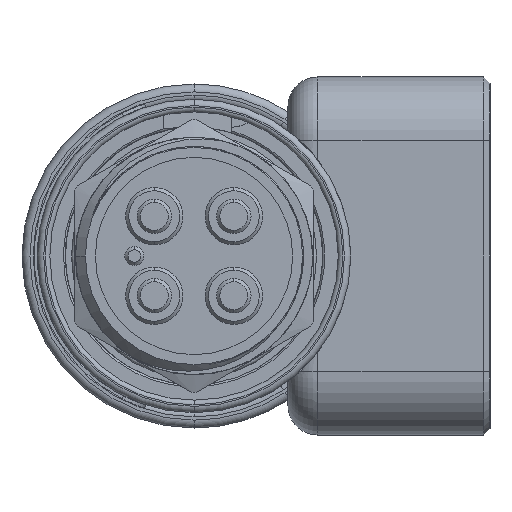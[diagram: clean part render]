
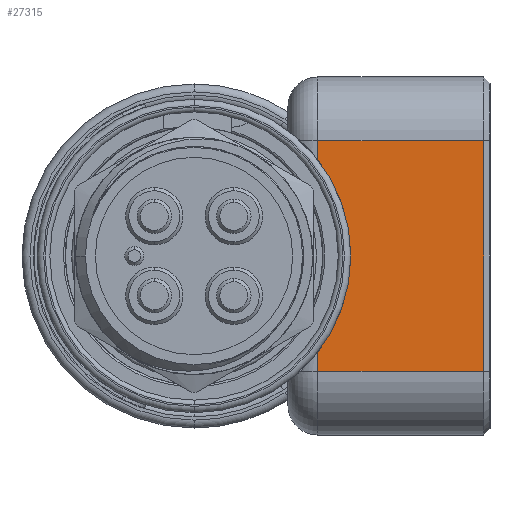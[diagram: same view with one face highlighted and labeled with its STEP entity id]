
A CAD part, left-side view. The second image highlights one B-rep face of the part: STEP entity #27315.
In plain terms, the highlighted planar face has unit normal (-1, 0, 0).
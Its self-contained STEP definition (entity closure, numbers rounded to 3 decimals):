
#662 = VERTEX_POINT ( 'NONE', #8301 ) ;
#1004 = ORIENTED_EDGE ( 'NONE', *, *, #38728, .T. ) ;
#3672 = EDGE_CURVE ( 'NONE', #4605, #39556, #26020, .T. ) ;
#4064 = CARTESIAN_POINT ( 'NONE',  ( -5.958, -9.876, 14.287 ) ) ;
#4555 = ORIENTED_EDGE ( 'NONE', *, *, #3672, .T. ) ;
#4605 = VERTEX_POINT ( 'NONE', #39994 ) ;
#5695 = EDGE_CURVE ( 'NONE', #6541, #28478, #25337, .T. ) ;
#5750 = VECTOR ( 'NONE', #38455, 1000. ) ;
#6182 = CARTESIAN_POINT ( 'NONE',  ( -5.958, -7.493, -9.208 ) ) ;
#6523 = CARTESIAN_POINT ( 'NONE',  ( -5.958, -7.493, 9.207 ) ) ;
#6541 = VERTEX_POINT ( 'NONE', #36929 ) ;
#7332 = DIRECTION ( 'NONE',  ( 0., 0., -1. ) ) ;
#8301 = CARTESIAN_POINT ( 'NONE',  ( -5.958, -9.876, 9.207 ) ) ;
#8409 = VECTOR ( 'NONE', #42129, 1000. ) ;
#8831 = VECTOR ( 'NONE', #32306, 1000. ) ;
#8895 = DIRECTION ( 'NONE',  ( 1., 0., 0. ) ) ;
#9024 = VECTOR ( 'NONE', #7332, 1000. ) ;
#9980 = EDGE_CURVE ( 'NONE', #662, #6541, #12152, .T. ) ;
#12152 = LINE ( 'NONE', #37446, #28933 ) ;
#14353 = LINE ( 'NONE', #18875, #5750 ) ;
#15240 = PLANE ( 'NONE',  #39235 ) ;
#15395 = DIRECTION ( 'NONE',  ( 0., 0., -1. ) ) ;
#16160 = ORIENTED_EDGE ( 'NONE', *, *, #9980, .T. ) ;
#17039 = CARTESIAN_POINT ( 'NONE',  ( -5.958, -23.114, 9.207 ) ) ;
#17493 = VERTEX_POINT ( 'NONE', #17039 ) ;
#18875 = CARTESIAN_POINT ( 'NONE',  ( -5.958, -23.114, 14.287 ) ) ;
#19326 = CARTESIAN_POINT ( 'NONE',  ( -5.958, 0., 0. ) ) ;
#20799 = ORIENTED_EDGE ( 'NONE', *, *, #25568, .T. ) ;
#21349 = CARTESIAN_POINT ( 'NONE',  ( -5.958, -9.876, -7.679 ) ) ;
#22413 = EDGE_LOOP ( 'NONE', ( #4555, #20799, #1004, #16160, #28588, #25486 ) ) ;
#25337 = CIRCLE ( 'NONE', #34863, 12.509 ) ;
#25486 = ORIENTED_EDGE ( 'NONE', *, *, #28310, .T. ) ;
#25568 = EDGE_CURVE ( 'NONE', #39556, #17493, #14353, .T. ) ;
#26020 = LINE ( 'NONE', #6182, #8831 ) ;
#26204 = LINE ( 'NONE', #4064, #9024 ) ;
#27315 = ADVANCED_FACE ( 'NONE', ( #29321 ), #15240, .F. ) ;
#28289 = CARTESIAN_POINT ( 'NONE',  ( -5.958, -7.493, 14.287 ) ) ;
#28310 = EDGE_CURVE ( 'NONE', #28478, #4605, #26204, .T. ) ;
#28478 = VERTEX_POINT ( 'NONE', #21349 ) ;
#28588 = ORIENTED_EDGE ( 'NONE', *, *, #5695, .T. ) ;
#28933 = VECTOR ( 'NONE', #15395, 1000. ) ;
#29321 = FACE_OUTER_BOUND ( 'NONE', #22413, .T. ) ;
#31559 = DIRECTION ( 'NONE',  ( 0., 0., -1. ) ) ;
#32306 = DIRECTION ( 'NONE',  ( 0., -1., 0. ) ) ;
#34263 = LINE ( 'NONE', #6523, #8409 ) ;
#34390 = DIRECTION ( 'NONE',  ( 0., 0., -1. ) ) ;
#34863 = AXIS2_PLACEMENT_3D ( 'NONE', #19326, #38360, #34390 ) ;
#36929 = CARTESIAN_POINT ( 'NONE',  ( -5.958, -9.876, 7.679 ) ) ;
#37446 = CARTESIAN_POINT ( 'NONE',  ( -5.958, -9.876, 14.287 ) ) ;
#38360 = DIRECTION ( 'NONE',  ( 1., 0., 0. ) ) ;
#38455 = DIRECTION ( 'NONE',  ( 0., 0., 1. ) ) ;
#38728 = EDGE_CURVE ( 'NONE', #17493, #662, #34263, .T. ) ;
#39187 = CARTESIAN_POINT ( 'NONE',  ( -5.958, -23.114, -9.208 ) ) ;
#39235 = AXIS2_PLACEMENT_3D ( 'NONE', #28289, #8895, #31559 ) ;
#39556 = VERTEX_POINT ( 'NONE', #39187 ) ;
#39994 = CARTESIAN_POINT ( 'NONE',  ( -5.958, -9.876, -9.208 ) ) ;
#42129 = DIRECTION ( 'NONE',  ( 0., 1., 0. ) ) ;
